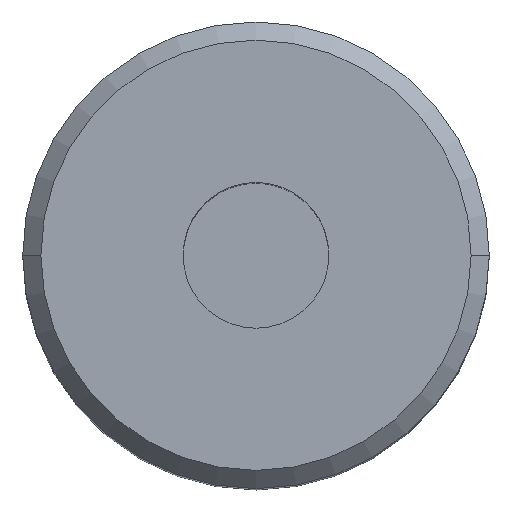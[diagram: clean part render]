
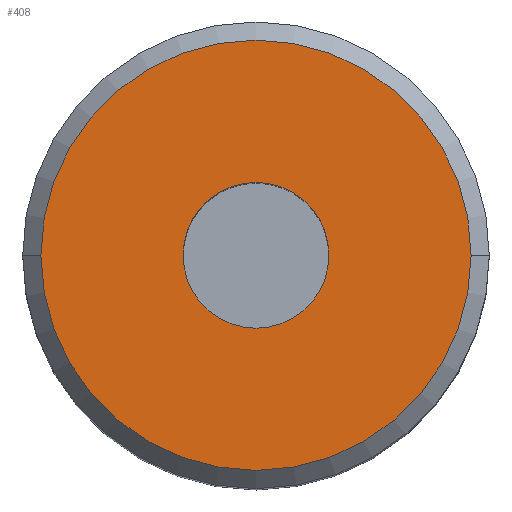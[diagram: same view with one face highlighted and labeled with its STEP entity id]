
A CAD part, top view. The second image highlights one B-rep face of the part: STEP entity #408.
In plain terms, the highlighted planar face has unit normal (0, 0, 1).
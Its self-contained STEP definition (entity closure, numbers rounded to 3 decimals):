
#278=AXIS2_PLACEMENT_3D('Circle Axis2P3D',#276,#277,$) ;
#313=AXIS2_PLACEMENT_3D('Circle Axis2P3D',#311,#312,$) ;
#384=AXIS2_PLACEMENT_3D('Plane Axis2P3D',#381,#382,#383) ;
#388=AXIS2_PLACEMENT_3D('Circle Axis2P3D',#386,#387,$) ;
#397=AXIS2_PLACEMENT_3D('Circle Axis2P3D',#395,#396,$) ;
#276=CARTESIAN_POINT('Axis2P3D Location',(-8.035,42.431,21.5)) ;
#280=CARTESIAN_POINT('Vertex',(-10.035,42.431,21.5)) ;
#282=CARTESIAN_POINT('Vertex',(-6.035,42.431,21.5)) ;
#311=CARTESIAN_POINT('Axis2P3D Location',(-8.035,42.431,21.5)) ;
#381=CARTESIAN_POINT('Axis2P3D Location',(0.,0.,21.5)) ;
#386=CARTESIAN_POINT('Axis2P3D Location',(-8.035,42.431,21.5)) ;
#390=CARTESIAN_POINT('Vertex',(-2.135,42.431,21.5)) ;
#392=CARTESIAN_POINT('Vertex',(-13.935,42.431,21.5)) ;
#395=CARTESIAN_POINT('Axis2P3D Location',(-8.035,42.431,21.5)) ;
#277=DIRECTION('Axis2P3D Direction',(0.,0.,1.)) ;
#312=DIRECTION('Axis2P3D Direction',(0.,0.,1.)) ;
#382=DIRECTION('Axis2P3D Direction',(0.,0.,1.)) ;
#383=DIRECTION('Axis2P3D XDirection',(1.,0.,0.)) ;
#387=DIRECTION('Axis2P3D Direction',(0.,0.,1.)) ;
#396=DIRECTION('Axis2P3D Direction',(0.,0.,1.)) ;
#401=ORIENTED_EDGE('',*,*,#394,.T.) ;
#402=ORIENTED_EDGE('',*,*,#399,.T.) ;
#405=ORIENTED_EDGE('',*,*,#284,.F.) ;
#406=ORIENTED_EDGE('',*,*,#315,.F.) ;
#407=FACE_BOUND('',#404,.T.) ;
#408=ADVANCED_FACE('\X2\96F64EF651E04F554F53\X0\',(#403,#407),#385,.T.) ;
#279=CIRCLE('generated circle',#278,2.) ;
#314=CIRCLE('generated circle',#313,2.) ;
#389=CIRCLE('generated circle',#388,5.9) ;
#398=CIRCLE('generated circle',#397,5.9) ;
#284=EDGE_CURVE('',#281,#283,#279,.T.) ;
#315=EDGE_CURVE('',#283,#281,#314,.T.) ;
#394=EDGE_CURVE('',#391,#393,#389,.T.) ;
#399=EDGE_CURVE('',#393,#391,#398,.T.) ;
#400=EDGE_LOOP('',(#401,#402)) ;
#404=EDGE_LOOP('',(#405,#406)) ;
#403=FACE_OUTER_BOUND('',#400,.T.) ;
#385=PLANE('',#384) ;
#281=VERTEX_POINT('',#280) ;
#283=VERTEX_POINT('',#282) ;
#391=VERTEX_POINT('',#390) ;
#393=VERTEX_POINT('',#392) ;
